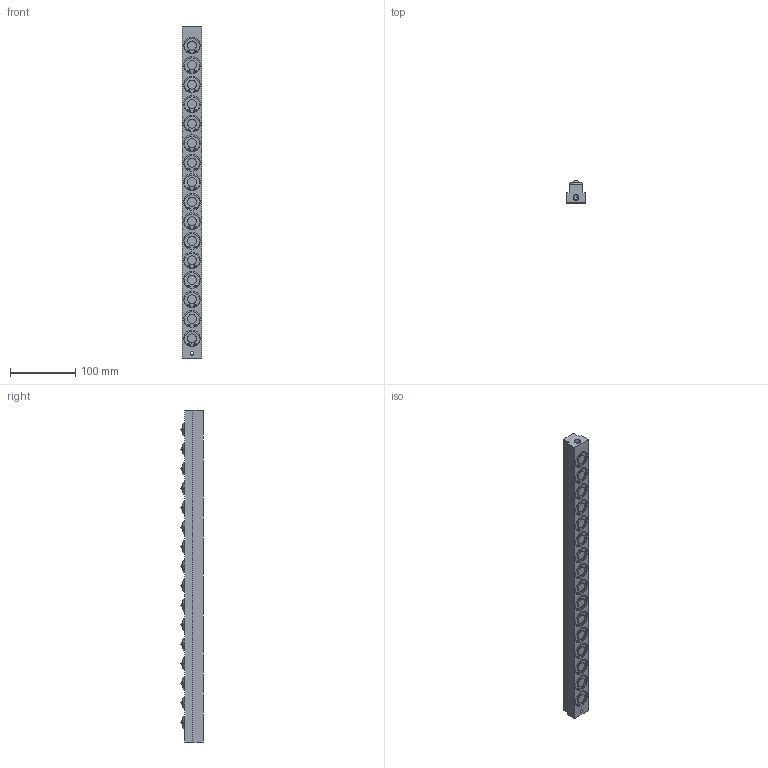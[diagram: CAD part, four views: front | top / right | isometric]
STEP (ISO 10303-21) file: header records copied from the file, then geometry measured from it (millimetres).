
FILE_DESCRIPTION (( 'STEP AP203' ), '1' );
FILE_NAME ('PVL20T-16.STEP', '2015-12-24T07:30:06', ( '' ), ( '' ), 'SwSTEP 2.0', 'SolidWorks 2013', '' );
FILE_SCHEMA (( 'CONFIG_CONTROL_DESIGN' ));
Length unit declared in the file: millimetre
Products named in the file (1): PVL20T-16
Bounding box: 30 x 34 x 510 mm (x, y, z)
Volume: 375180.8 mm3; surface area: 68112 mm2
Topology: 1 solids, 1 shells, 470 faces, 1124 edges, 753 vertices
Faces by surface type: cylinder 262, plane 140, torus 32, sphere 32, cone 4
Entity records: 14127 total; most frequent: DIRECTION 2784, CARTESIAN_POINT 2346, ORIENTED_EDGE 2244, AXIS2_PLACEMENT_3D 1191, EDGE_CURVE 1122, VERTEX_POINT 753, CIRCLE 720, EDGE_LOOP 571
